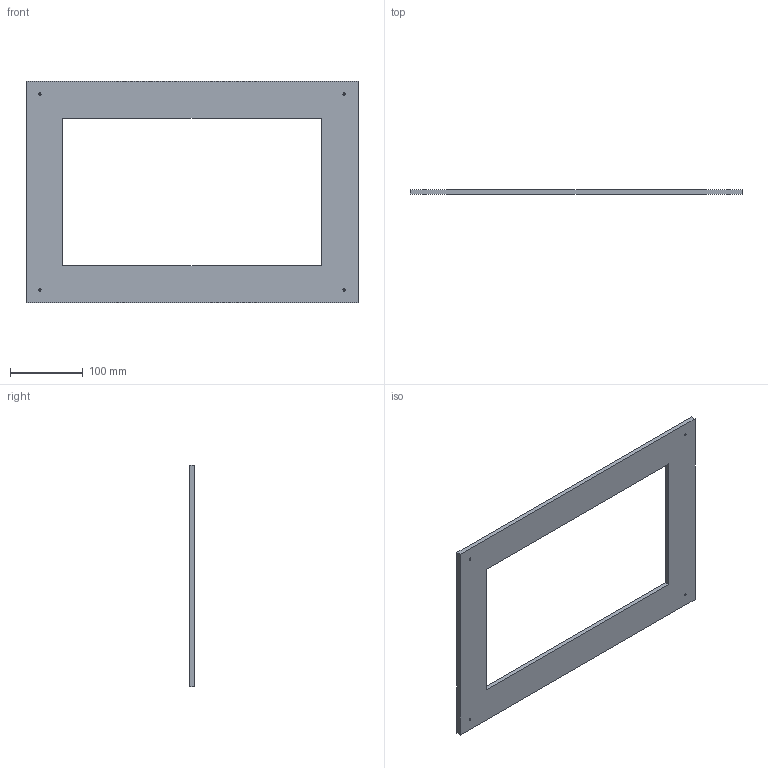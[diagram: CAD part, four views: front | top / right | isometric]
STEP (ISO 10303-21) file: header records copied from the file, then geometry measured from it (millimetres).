
FILE_DESCRIPTION(/* description */ ('STEP AP242','CAx-IF Rec.Pracs.---Representation and Presentation of Product Manufacturing Information (PMI)---4.0---2014-10-13','CAx-IF Rec.Pracs.---3D Tessellated Geometry---0.4---2014-09-14','2;1'),/* implementation_level */ '2;1');
FILE_NAME(/* name */ '6764807c24e35a5f7c7a57f2',/* time_stamp */ '2024-12-19T20:22:20Z',/* author */ (''),/* organization */ (''),/* preprocessor_version */ 'ST-DEVELOPER v20',/* originating_system */ 'ONSHAPE BY PTC INC, 1.191',/* authorisation */ ' ');
FILE_SCHEMA (('AP242_MANAGED_MODEL_BASED_3D_ENGINEERING_MIM_LF { 1 0 10303 442 1 1 4 }'));
Length unit declared in the file: metre
Products named in the file (1): Part 1
Bounding box: 457.2 x 6.35 x 304.8 mm (x, y, z)
Volume: 425856.1 mm3; surface area: 151159.5 mm2
Topology: 1 solids, 1 shells, 14 faces, 40 edges, 28 vertices
Faces by surface type: plane 10, cylinder 4
Full cylindrical faces by diameter (mm): 3.226 x4
Entity records: 450 total; most frequent: CARTESIAN_POINT 71, DIRECTION 70, ORIENTED_EDGE 64, EDGE_CURVE 32, EDGE_LOOP 28, FACE_BOUND 28, LINE 24, VECTOR 24
